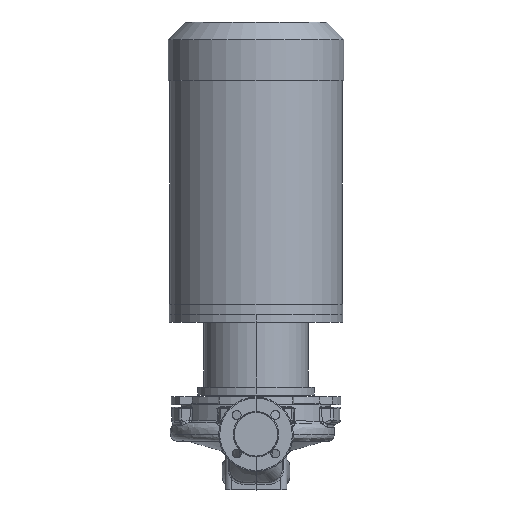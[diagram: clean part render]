
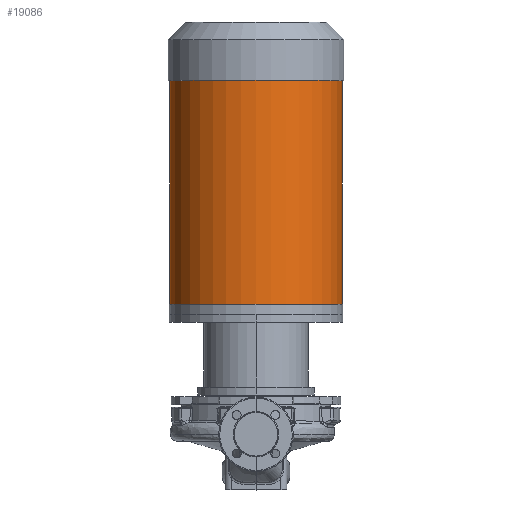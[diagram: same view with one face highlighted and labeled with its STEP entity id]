
A CAD part, top view. The second image highlights one B-rep face of the part: STEP entity #19086.
In plain terms, the highlighted cylindrical face has radius 174.5 mm (diameter 349 mm), a partial arc.
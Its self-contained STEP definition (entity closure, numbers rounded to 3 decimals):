
#1965 = VECTOR ( 'NONE', #68800, 1000. ) ;
#2242 = CIRCLE ( 'NONE', #58325, 174.5 ) ;
#3098 = ORIENTED_EDGE ( 'NONE', *, *, #26345, .F. ) ;
#4744 = CARTESIAN_POINT ( 'NONE',  ( -174.5, 262.3, 0. ) ) ;
#8767 = VERTEX_POINT ( 'NONE', #21360 ) ;
#10878 = DIRECTION ( 'NONE',  ( -1., 0., 0. ) ) ;
#11551 = DIRECTION ( 'NONE',  ( 0., -1., 0. ) ) ;
#11799 = DIRECTION ( 'NONE',  ( 0., -1., 0. ) ) ;
#12790 = ORIENTED_EDGE ( 'NONE', *, *, #56706, .F. ) ;
#15668 = LINE ( 'NONE', #57504, #1965 ) ;
#18804 = EDGE_CURVE ( 'NONE', #67316, #68972, #58208, .T. ) ;
#19086 = ADVANCED_FACE ( 'NONE', ( #27731 ), #26920, .T. ) ;
#19828 = EDGE_CURVE ( 'NONE', #68910, #67316, #2242, .T. ) ;
#21360 = CARTESIAN_POINT ( 'NONE',  ( 174.5, 262.3, 0. ) ) ;
#21936 = CARTESIAN_POINT ( 'NONE',  ( -174.5, 242.3, 0. ) ) ;
#23890 = CARTESIAN_POINT ( 'NONE',  ( -174.5, 714.3, 0. ) ) ;
#24553 = ORIENTED_EDGE ( 'NONE', *, *, #19828, .T. ) ;
#26345 = EDGE_CURVE ( 'NONE', #8767, #68972, #49864, .T. ) ;
#26920 = CYLINDRICAL_SURFACE ( 'NONE', #49186, 174.5 ) ;
#27680 = CARTESIAN_POINT ( 'NONE',  ( 0., 242.3, 0. ) ) ;
#27731 = FACE_OUTER_BOUND ( 'NONE', #49141, .T. ) ;
#31502 = CARTESIAN_POINT ( 'NONE',  ( 174.5, 714.3, 0. ) ) ;
#41335 = DIRECTION ( 'NONE',  ( 0., -1., 0. ) ) ;
#42281 = CARTESIAN_POINT ( 'NONE',  ( 0., 262.3, 0. ) ) ;
#44138 = CARTESIAN_POINT ( 'NONE',  ( 0., 714.3, 0. ) ) ;
#48449 = ORIENTED_EDGE ( 'NONE', *, *, #18804, .T. ) ;
#49141 = EDGE_LOOP ( 'NONE', ( #12790, #24553, #48449, #3098 ) ) ;
#49186 = AXIS2_PLACEMENT_3D ( 'NONE', #27680, #65407, #60213 ) ;
#49864 = CIRCLE ( 'NONE', #62214, 174.5 ) ;
#54777 = VECTOR ( 'NONE', #11551, 1000. ) ;
#56706 = EDGE_CURVE ( 'NONE', #68910, #8767, #15668, .T. ) ;
#57504 = CARTESIAN_POINT ( 'NONE',  ( 174.5, 242.3, 0. ) ) ;
#58094 = DIRECTION ( 'NONE',  ( -1., 0., 0. ) ) ;
#58208 = LINE ( 'NONE', #21936, #54777 ) ;
#58325 = AXIS2_PLACEMENT_3D ( 'NONE', #44138, #11799, #10878 ) ;
#60213 = DIRECTION ( 'NONE',  ( -1., 0., 0. ) ) ;
#62214 = AXIS2_PLACEMENT_3D ( 'NONE', #42281, #41335, #58094 ) ;
#65407 = DIRECTION ( 'NONE',  ( 0., -1., 0. ) ) ;
#67316 = VERTEX_POINT ( 'NONE', #23890 ) ;
#68800 = DIRECTION ( 'NONE',  ( 0., -1., 0. ) ) ;
#68910 = VERTEX_POINT ( 'NONE', #31502 ) ;
#68972 = VERTEX_POINT ( 'NONE', #4744 ) ;
